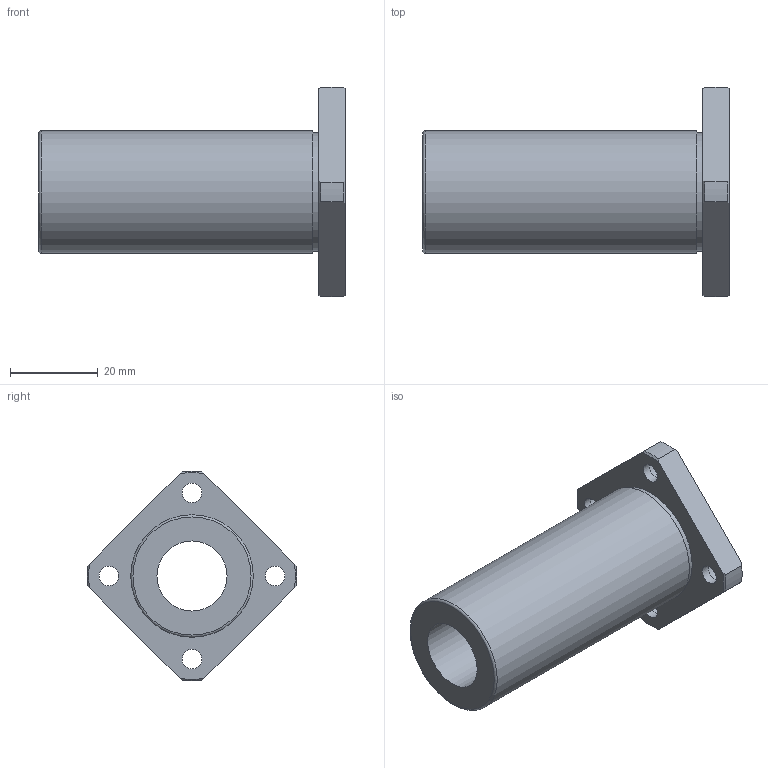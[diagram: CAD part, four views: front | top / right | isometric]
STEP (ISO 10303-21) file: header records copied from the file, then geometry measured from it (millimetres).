
FILE_DESCRIPTION(('STEP AP203'),'1');
FILE_NAME('//192.168.1.1/share/s-4 技術開発/s-4-4_CAD/s-4-4-3_見直し済み/002 修正済み/NFES-VL/NFES-VL_TOP/NFES-16VLUU.step','2022-03-08T00:54:43',(' '),(' '),'Spatial InterOp 3D',' ',' ');
FILE_SCHEMA(('CONFIG_CONTROL_DESIGN'));
Length unit declared in the file: millimetre
Products named in the file (1): 1
Bounding box: 70 x 47.98 x 47.98 mm (x, y, z)
Volume: 32518.2 mm3; surface area: 12708.3 mm2
Topology: 1 solids, 1 shells, 36 faces, 89 edges, 61 vertices
Faces by surface type: cylinder 15, plane 12, cone 8, torus 1
Full cylindrical faces by diameter (mm): 4.5 x4, 7.5 x4, 16 x1, 27 x1, 28 x1
Entity records: 1058 total; most frequent: CARTESIAN_POINT 211, DIRECTION 168, ORIENTED_EDGE 142, AXIS2_PLACEMENT_3D 76, EDGE_CURVE 71, EDGE_LOOP 64, VERTEX_POINT 55, FACE_OUTER_BOUND 48
